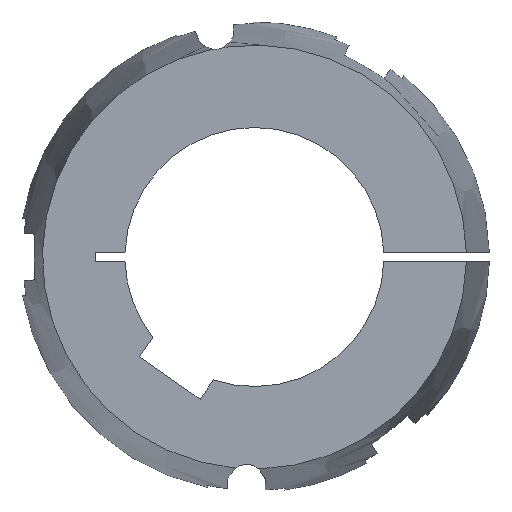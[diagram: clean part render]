
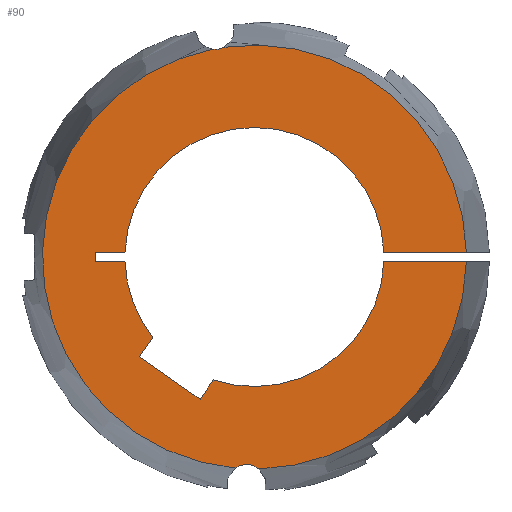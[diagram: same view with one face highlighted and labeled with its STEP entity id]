
A CAD part, left-side view. The second image highlights one B-rep face of the part: STEP entity #90.
In plain terms, the highlighted planar face has unit normal (-1, 0, 0).
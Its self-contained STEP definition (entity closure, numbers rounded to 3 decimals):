
#90 = ADVANCED_FACE( '', ( #140 ), #141, .F. );
#140 = FACE_OUTER_BOUND( '', #208, .T. );
#141 = PLANE( '', #209 );
#208 = EDGE_LOOP( '', ( #369, #370, #371, #372, #373, #374, #375, #376, #377, #378, #379, #380, #381, #382, #383, #384 ) );
#209 = AXIS2_PLACEMENT_3D( '', #385, #386, #387 );
#369 = ORIENTED_EDGE( '', *, *, #548, .F. );
#370 = ORIENTED_EDGE( '', *, *, #601, .F. );
#371 = ORIENTED_EDGE( '', *, *, #570, .T. );
#372 = ORIENTED_EDGE( '', *, *, #583, .T. );
#373 = ORIENTED_EDGE( '', *, *, #581, .T. );
#374 = ORIENTED_EDGE( '', *, *, #578, .T. );
#375 = ORIENTED_EDGE( '', *, *, #587, .T. );
#376 = ORIENTED_EDGE( '', *, *, #602, .T. );
#377 = ORIENTED_EDGE( '', *, *, #603, .T. );
#378 = ORIENTED_EDGE( '', *, *, #604, .T. );
#379 = ORIENTED_EDGE( '', *, *, #605, .T. );
#380 = ORIENTED_EDGE( '', *, *, #606, .T. );
#381 = ORIENTED_EDGE( '', *, *, #572, .T. );
#382 = ORIENTED_EDGE( '', *, *, #607, .F. );
#383 = ORIENTED_EDGE( '', *, *, #551, .F. );
#384 = ORIENTED_EDGE( '', *, *, #608, .F. );
#385 = CARTESIAN_POINT( '', ( -89., 0., 0. ) );
#386 = DIRECTION( '', ( 1., 0., 0. ) );
#387 = DIRECTION( '', ( 0., 1., 0. ) );
#548 = EDGE_CURVE( '', #649, #651, #652, .F. );
#551 = EDGE_CURVE( '', #655, #657, #658, .F. );
#570 = EDGE_CURVE( '', #693, #691, #694, .T. );
#572 = EDGE_CURVE( '', #696, #697, #698, .T. );
#578 = EDGE_CURVE( '', #709, #707, #710, .T. );
#581 = EDGE_CURVE( '', #714, #709, #715, .T. );
#583 = EDGE_CURVE( '', #691, #714, #717, .T. );
#587 = EDGE_CURVE( '', #707, #721, #723, .T. );
#601 = EDGE_CURVE( '', #693, #649, #745, .T. );
#602 = EDGE_CURVE( '', #721, #746, #747, .T. );
#603 = EDGE_CURVE( '', #746, #748, #749, .T. );
#604 = EDGE_CURVE( '', #748, #750, #751, .T. );
#605 = EDGE_CURVE( '', #750, #752, #753, .T. );
#606 = EDGE_CURVE( '', #752, #696, #754, .T. );
#607 = EDGE_CURVE( '', #657, #697, #755, .T. );
#608 = EDGE_CURVE( '', #651, #655, #756, .T. );
#649 = VERTEX_POINT( '', #815 );
#651 = VERTEX_POINT( '', #828 );
#652 = CIRCLE( '', #829, 5.25 );
#655 = VERTEX_POINT( '', #843 );
#657 = VERTEX_POINT( '', #861 );
#658 = CIRCLE( '', #862, 5.25 );
#691 = VERTEX_POINT( '', #935 );
#693 = VERTEX_POINT( '', #938 );
#694 = LINE( '', #939, #940 );
#696 = VERTEX_POINT( '', #948 );
#697 = VERTEX_POINT( '', #949 );
#698 = LINE( '', #950, #951 );
#707 = VERTEX_POINT( '', #969 );
#709 = VERTEX_POINT( '', #972 );
#710 = LINE( '', #973, #974 );
#714 = VERTEX_POINT( '', #980 );
#715 = LINE( '', #981, #982 );
#717 = CIRCLE( '', #985, 35. );
#721 = VERTEX_POINT( '', #990 );
#723 = LINE( '', #993, #994 );
#745 = CIRCLE( '', #1019, 57.277 );
#746 = VERTEX_POINT( '', #1020 );
#747 = CIRCLE( '', #1021, 35. );
#748 = VERTEX_POINT( '', #1022 );
#749 = LINE( '', #1023, #1024 );
#750 = VERTEX_POINT( '', #1025 );
#751 = LINE( '', #1026, #1027 );
#752 = VERTEX_POINT( '', #1028 );
#753 = LINE( '', #1029, #1030 );
#754 = CIRCLE( '', #1031, 35. );
#755 = CIRCLE( '', #1032, 57.277 );
#756 = CIRCLE( '', #1033, 57.277 );
#815 = CARTESIAN_POINT( '', ( -89., -1.169, -57.265 ) );
#828 = CARTESIAN_POINT( '', ( -89., 5.158, -57.044 ) );
#829 = AXIS2_PLACEMENT_3D( '', #1193, #1194, #1195 );
#843 = CARTESIAN_POINT( '', ( -89., 11.362, 56.138 ) );
#861 = CARTESIAN_POINT( '', ( -89., 8.229, 56.682 ) );
#862 = AXIS2_PLACEMENT_3D( '', #1196, #1197, #1198 );
#935 = CARTESIAN_POINT( '', ( -89., -34.978, -1.25 ) );
#938 = CARTESIAN_POINT( '', ( -89., -57.263, -1.25 ) );
#939 = CARTESIAN_POINT( '', ( -89., -63.5, -1.25 ) );
#940 = VECTOR( '', #1228, 1000. );
#948 = CARTESIAN_POINT( '', ( -89., -34.978, 1.25 ) );
#949 = CARTESIAN_POINT( '', ( -89., -57.263, 1.25 ) );
#950 = CARTESIAN_POINT( '', ( -89., 0., 1.25 ) );
#951 = VECTOR( '', #1229, 1000. );
#969 = CARTESIAN_POINT( '', ( -89., 31.077, -26.948 ) );
#972 = CARTESIAN_POINT( '', ( -89., 14.694, -38.42 ) );
#973 = CARTESIAN_POINT( '', ( -89., 14.694, -38.42 ) );
#974 = VECTOR( '', #1234, 1000. );
#980 = CARTESIAN_POINT( '', ( -89., 11.047, -33.211 ) );
#981 = CARTESIAN_POINT( '', ( -89., 11.047, -33.211 ) );
#982 = VECTOR( '', #1237, 1000. );
#985 = AXIS2_PLACEMENT_3D( '', #1239, #1240, #1241 );
#990 = CARTESIAN_POINT( '', ( -89., 27.43, -21.739 ) );
#993 = CARTESIAN_POINT( '', ( -89., 31.077, -26.948 ) );
#994 = VECTOR( '', #1247, 1000. );
#1019 = AXIS2_PLACEMENT_3D( '', #1281, #1282, #1283 );
#1020 = CARTESIAN_POINT( '', ( -89., 34.978, -1.25 ) );
#1021 = AXIS2_PLACEMENT_3D( '', #1284, #1285, #1286 );
#1022 = CARTESIAN_POINT( '', ( -89., 43., -1.25 ) );
#1023 = CARTESIAN_POINT( '', ( -89., 0., -1.25 ) );
#1024 = VECTOR( '', #1287, 1000. );
#1025 = CARTESIAN_POINT( '', ( -89., 43., 1.25 ) );
#1026 = CARTESIAN_POINT( '', ( -89., 43., -1.25 ) );
#1027 = VECTOR( '', #1288, 1000. );
#1028 = CARTESIAN_POINT( '', ( -89., 34.978, 1.25 ) );
#1029 = CARTESIAN_POINT( '', ( -89., 43., 1.25 ) );
#1030 = VECTOR( '', #1289, 1000. );
#1031 = AXIS2_PLACEMENT_3D( '', #1290, #1291, #1292 );
#1032 = AXIS2_PLACEMENT_3D( '', #1293, #1294, #1295 );
#1033 = AXIS2_PLACEMENT_3D( '', #1296, #1297, #1298 );
#1193 = CARTESIAN_POINT( '', ( -89., 2.141, -61.34 ) );
#1194 = DIRECTION( '', ( 1., 0., 0. ) );
#1195 = DIRECTION( '', ( 0., 1., 0. ) );
#1196 = CARTESIAN_POINT( '', ( -89., 10.652, 61.34 ) );
#1197 = DIRECTION( '', ( 1., 0., 0. ) );
#1198 = DIRECTION( '', ( 0., 1., 0. ) );
#1228 = DIRECTION( '', ( 0., 1., 0. ) );
#1229 = DIRECTION( '', ( 0., -1., 0. ) );
#1234 = DIRECTION( '', ( 0., 0.819, 0.574 ) );
#1237 = DIRECTION( '', ( 0., 0.574, -0.819 ) );
#1239 = CARTESIAN_POINT( '', ( -89., 0., 0. ) );
#1240 = DIRECTION( '', ( 1., 0., 0. ) );
#1241 = DIRECTION( '', ( 0., 0., -1. ) );
#1247 = DIRECTION( '', ( 0., -0.574, 0.819 ) );
#1281 = CARTESIAN_POINT( '', ( -89., 0., 0. ) );
#1282 = DIRECTION( '', ( 1., 0., 0. ) );
#1283 = DIRECTION( '', ( 0., 1., 0. ) );
#1284 = CARTESIAN_POINT( '', ( -89., 0., 0. ) );
#1285 = DIRECTION( '', ( 1., 0., 0. ) );
#1286 = DIRECTION( '', ( 0., 0., -1. ) );
#1287 = DIRECTION( '', ( 0., 1., 0. ) );
#1288 = DIRECTION( '', ( 0., 0., 1. ) );
#1289 = DIRECTION( '', ( 0., -1., 0. ) );
#1290 = CARTESIAN_POINT( '', ( -89., 0., 0. ) );
#1291 = DIRECTION( '', ( 1., 0., 0. ) );
#1292 = DIRECTION( '', ( 0., 0., -1. ) );
#1293 = CARTESIAN_POINT( '', ( -89., 0., 0. ) );
#1294 = DIRECTION( '', ( 1., 0., 0. ) );
#1295 = DIRECTION( '', ( 0., 1., 0. ) );
#1296 = CARTESIAN_POINT( '', ( -89., 0., 0. ) );
#1297 = DIRECTION( '', ( 1., 0., 0. ) );
#1298 = DIRECTION( '', ( 0., 1., 0. ) );
